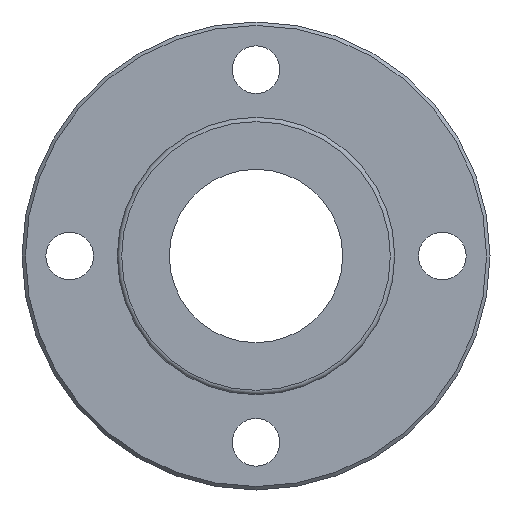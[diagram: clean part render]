
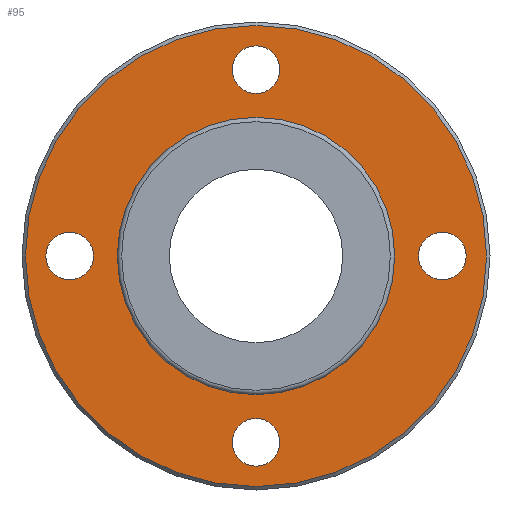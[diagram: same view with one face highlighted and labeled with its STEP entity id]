
A CAD part, left-side view. The second image highlights one B-rep face of the part: STEP entity #95.
In plain terms, the highlighted planar face has unit normal (-1, 0, 0).
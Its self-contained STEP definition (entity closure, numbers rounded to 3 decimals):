
#95=ADVANCED_FACE('',(#168,#169,#170,#171,#172,#173),#174,.T.);
#168=FACE_OUTER_BOUND('',#260,.T.);
#169=FACE_BOUND('',#261,.T.);
#170=FACE_BOUND('',#262,.T.);
#171=FACE_BOUND('',#263,.T.);
#172=FACE_BOUND('',#264,.T.);
#173=FACE_BOUND('',#265,.T.);
#174=PLANE('',#266);
#260=EDGE_LOOP('',(#392));
#261=EDGE_LOOP('',(#393));
#262=EDGE_LOOP('',(#394));
#263=EDGE_LOOP('',(#395));
#264=EDGE_LOOP('',(#396));
#265=EDGE_LOOP('',(#397));
#266=AXIS2_PLACEMENT_3D('',#398,#399,#400);
#392=ORIENTED_EDGE('',*,*,#463,.F.);
#393=ORIENTED_EDGE('',*,*,#453,.T.);
#394=ORIENTED_EDGE('',*,*,#455,.T.);
#395=ORIENTED_EDGE('',*,*,#460,.T.);
#396=ORIENTED_EDGE('',*,*,#436,.T.);
#397=ORIENTED_EDGE('',*,*,#458,.T.);
#398=CARTESIAN_POINT('',(-8.0,21.05,0.0));
#399=DIRECTION('',(-1.0,0.,0.));
#400=DIRECTION('',(0.,0.0,1.0));
#436=EDGE_CURVE('',#468,#468,#469,.T.);
#453=EDGE_CURVE('',#502,#502,#503,.T.);
#455=EDGE_CURVE('',#506,#506,#507,.T.);
#458=EDGE_CURVE('',#512,#512,#513,.T.);
#460=EDGE_CURVE('',#516,#516,#517,.T.);
#463=EDGE_CURVE('',#522,#522,#523,.T.);
#468=VERTEX_POINT('',#532);
#469=CIRCLE('',#533,2.75);
#502=VERTEX_POINT('',#566);
#503=CIRCLE('',#567,2.75);
#506=VERTEX_POINT('',#570);
#507=CIRCLE('',#571,2.75);
#512=VERTEX_POINT('',#576);
#513=CIRCLE('',#577,15.5);
#516=VERTEX_POINT('',#580);
#517=CIRCLE('',#581,2.75);
#522=VERTEX_POINT('',#586);
#523=CIRCLE('',#587,26.6);
#532=CARTESIAN_POINT('',(-8.0,21.5,2.75));
#533=AXIS2_PLACEMENT_3D('',#596,#597,#598);
#566=CARTESIAN_POINT('',(-8.0,0.0,24.25));
#567=AXIS2_PLACEMENT_3D('',#647,#648,#649);
#570=CARTESIAN_POINT('',(-8.0,-21.5,2.75));
#571=AXIS2_PLACEMENT_3D('',#653,#654,#655);
#576=CARTESIAN_POINT('',(-8.0,15.5,0.0));
#577=AXIS2_PLACEMENT_3D('',#662,#663,#664);
#580=CARTESIAN_POINT('',(-8.0,0.0,-18.75));
#581=AXIS2_PLACEMENT_3D('',#668,#669,#670);
#586=CARTESIAN_POINT('',(-8.0,26.6,0.0));
#587=AXIS2_PLACEMENT_3D('',#677,#678,#679);
#596=CARTESIAN_POINT('',(-8.0,21.5,0.));
#597=DIRECTION('',(1.0,0.,0.));
#598=DIRECTION('',(0.,0.0,-1.0));
#647=CARTESIAN_POINT('',(-8.0,0.0,21.5));
#648=DIRECTION('',(1.0,0.,0.));
#649=DIRECTION('',(0.,0.0,-1.0));
#653=CARTESIAN_POINT('',(-8.0,-21.5,0.));
#654=DIRECTION('',(1.0,0.,0.));
#655=DIRECTION('',(0.,0.0,-1.0));
#662=CARTESIAN_POINT('',(-8.0,0.0,0.0));
#663=DIRECTION('',(1.0,0.0,0.));
#664=DIRECTION('',(0.0,1.0,0.0));
#668=CARTESIAN_POINT('',(-8.0,0.0,-21.5));
#669=DIRECTION('',(1.0,0.,0.));
#670=DIRECTION('',(0.,0.0,-1.0));
#677=CARTESIAN_POINT('',(-8.0,0.0,0.0));
#678=DIRECTION('',(1.0,0.0,0.));
#679=DIRECTION('',(0.0,1.0,0.0));
